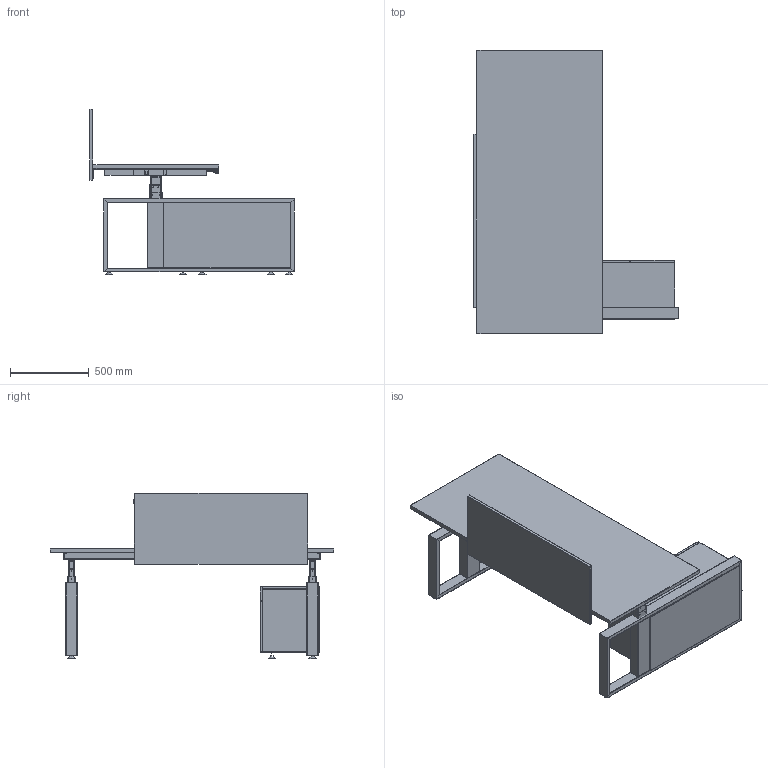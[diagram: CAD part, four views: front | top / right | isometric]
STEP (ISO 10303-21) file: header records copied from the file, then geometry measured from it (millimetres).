
FILE_DESCRIPTION ((), '1');
FILE_NAME ('C:\D\DESING\TABLE DESK PROJECT\MODESK WEB\3D MODELY KE STAZENI\DESIGNER\MODESK_DESIGNER_1800 + KONTEJNER P.stp', '2019-08-02T13:25:45', ('Unknown'), ('Unknown'), 'HarmonyWare STEP v1.4.3', 'HarmonyWare Translators', '');
FILE_SCHEMA (('CONFIG_CONTROL_DESIGN'));
Length unit declared in the file: millimetre
Products named in the file (139): MODESK_DESIGNER_1800 + KONTEJNER P
Bounding box: 1300 x 1800 x 1047.05 mm (x, y, z)
Volume: 65913005.4 mm3; surface area: 14607141.9 mm2
Topology: 93 solids, 139 shells, 5670 faces, 15104 edges, 9619 vertices
Faces by surface type: bspline 5670
Entity records: 285458 total; most frequent: CARTESIAN_POINT 187033, ORIENTED_EDGE 29046, EDGE_CURVE 14877, B_SPLINE_CURVE_WITH_KNOTS 9810, VERTEX_POINT 9630, EDGE_LOOP 6152, FACE_OUTER_BOUND 5670, ADVANCED_FACE 5670
